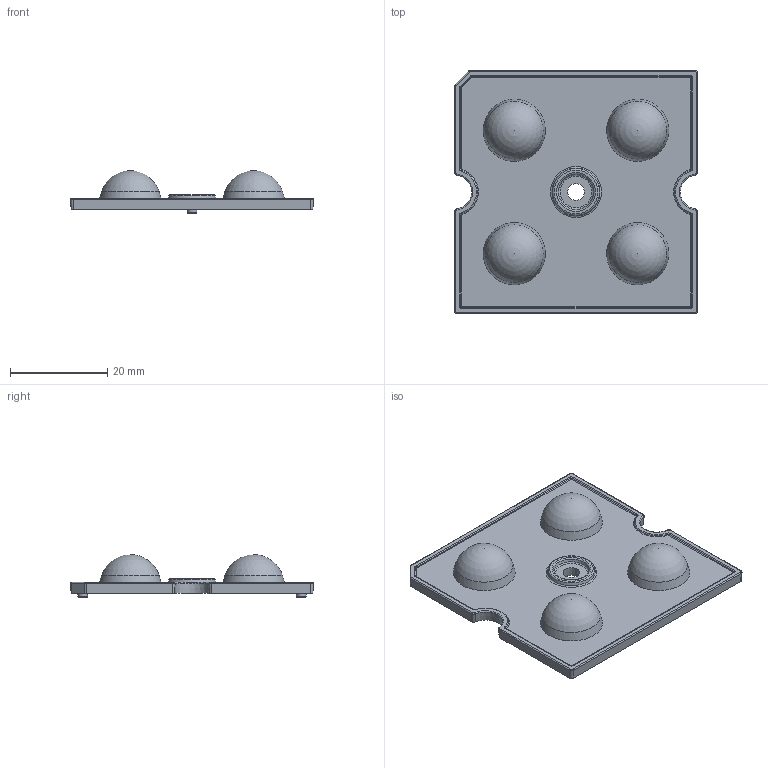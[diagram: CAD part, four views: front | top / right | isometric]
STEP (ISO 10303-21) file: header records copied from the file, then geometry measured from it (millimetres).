
FILE_DESCRIPTION(/* description */ ('Unknown'),/* implementation_level */ '2;1');
FILE_NAME(/* name */ '023YW09Y04',/* time_stamp */ '2022-11-18T07:35:17+01:00',/* author */ ('Unknown'),/* organization */ ('Unknown'),/* preprocessor_version */ 'ST-DEVELOPER v16.7',/* originating_system */ 'Solid Edge',/* authorisation */ 'Unknown');
FILE_SCHEMA (('AUTOMOTIVE_DESIGN {1 0 10303 214 3 1 1}'));
Length unit declared in the file: millimetre
Products named in the file (1): 023-W09-04
Bounding box: 49.98 x 49.98 x 8.8 mm (x, y, z)
Volume: 6062.7 mm3; surface area: 6116.7 mm2
Topology: 1 solids, 1 shells, 281 faces, 709 edges, 468 vertices
Faces by surface type: plane 149, cylinder 42, bspline 35, torus 34, cone 17, sphere 4
Full cylindrical faces by diameter (mm): 1.99 x2, 11.717 x4
Entity records: 9057 total; most frequent: CARTESIAN_POINT 2905, ORIENTED_EDGE 1312, DIRECTION 1102, EDGE_CURVE 656, VERTEX_POINT 452, AXIS2_PLACEMENT_3D 427, EDGE_LOOP 358, FACE_BOUND 358
